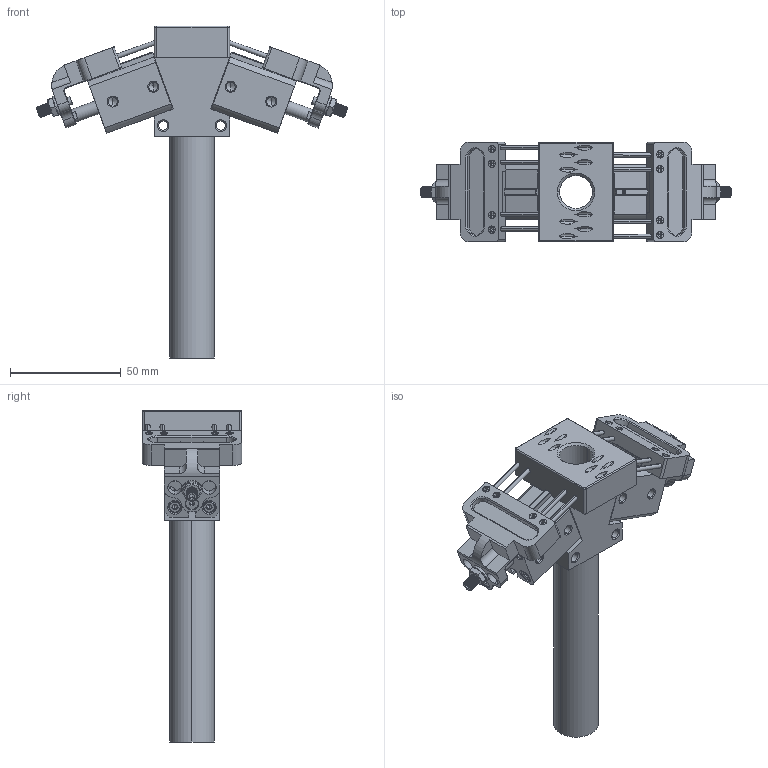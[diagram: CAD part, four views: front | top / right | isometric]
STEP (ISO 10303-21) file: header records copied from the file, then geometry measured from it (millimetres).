
FILE_DESCRIPTION (( 'STEP AP214' ), '1' );
FILE_NAME ('GN2010-8.STEP', '2020-09-22T09:16:25', ( 'admin' ), ( '' ), 'SwSTEP 2.0', 'SolidWorks 2016', '' );
FILE_SCHEMA (( 'AUTOMOTIVE_DESIGN' ));
Length unit declared in the file: millimetre
Products named in the file (1): GN2010-8
Bounding box: 140.67 x 45 x 150 mm (x, y, z)
Volume: 102630.2 mm3; surface area: 59286.1 mm2
Topology: 12 solids, 62 shells, 2414 faces, 5401 edges, 3119 vertices
Faces by surface type: cone 866, plane 760, cylinder 715, bspline 69, torus 4
Entity records: 70536 total; most frequent: CARTESIAN_POINT 16776, DIRECTION 11847, ORIENTED_EDGE 10626, EDGE_CURVE 5313, AXIS2_PLACEMENT_3D 4522, VERTEX_POINT 3119, VECTOR 2803, LINE 2803
